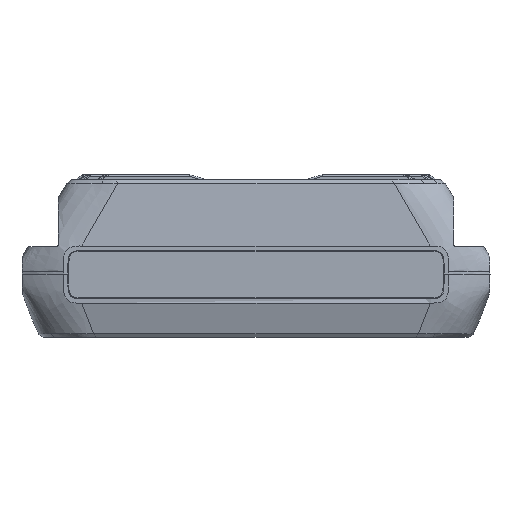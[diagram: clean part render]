
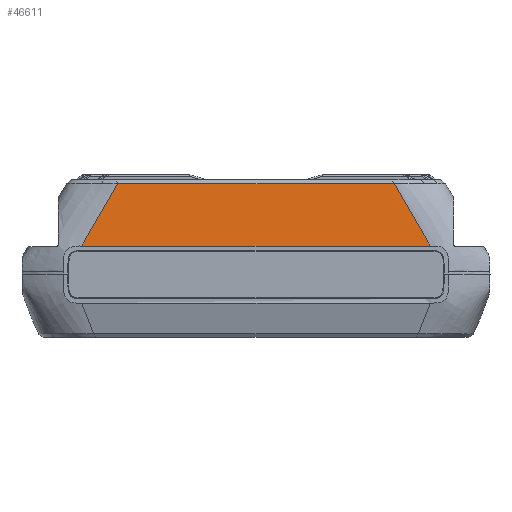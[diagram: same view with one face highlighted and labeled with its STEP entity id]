
A CAD part, top view. The second image highlights one B-rep face of the part: STEP entity #46611.
In plain terms, the highlighted face is a extrusion surface.
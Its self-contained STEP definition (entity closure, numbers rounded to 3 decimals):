
#20863=CARTESIAN_POINT('',(-26.58,11.254,
11.894));
#20864=CARTESIAN_POINT('',(-26.857,10.778,
11.932));
#20865=CARTESIAN_POINT('',(-27.398,9.839,
12.008));
#20866=CARTESIAN_POINT('',(-28.195,8.457,
12.118));
#20867=CARTESIAN_POINT('',(-28.948,7.15,
12.222));
#20868=CARTESIAN_POINT('',(-29.754,5.751,
12.334));
#20869=CARTESIAN_POINT('',(-30.529,4.405,
12.442));
#20870=CARTESIAN_POINT('',(-31.261,3.138,
12.543));
#20871=CARTESIAN_POINT('',(-32.048,1.779,
12.651));
#20872=CARTESIAN_POINT('',(-32.796,0.489,
12.756));
#20873=CARTESIAN_POINT('',(-33.272,-0.344,
12.819));
#20874=CARTESIAN_POINT('',(-33.506,-0.753,
12.854));
#23046=CARTESIAN_POINT('',(33.506,-0.753,
12.854));
#23047=CARTESIAN_POINT('',(33.263,-0.33,
12.818));
#23048=CARTESIAN_POINT('',(32.774,0.526,
12.753));
#23049=CARTESIAN_POINT('',(32.016,1.834,12.647));
#23050=CARTESIAN_POINT('',(31.232,3.187,12.539));
#23051=CARTESIAN_POINT('',(30.506,4.444,12.439));
#23052=CARTESIAN_POINT('',(29.74,5.773,12.332));
#23053=CARTESIAN_POINT('',(28.945,7.154,12.222));
#23054=CARTESIAN_POINT('',(28.2,8.447,12.119));
#23055=CARTESIAN_POINT('',(27.406,9.824,12.009));
#23056=CARTESIAN_POINT('',(26.86,10.771,11.933));
#23057=CARTESIAN_POINT('',(26.579,11.254,11.894));
#23296=DIRECTION('',(1.,0.,0.));
#23297=VECTOR('',#23296,53.16);
#23298=CARTESIAN_POINT('',(-26.58,11.254,
11.894));
#23299=LINE('',#23298,#23297);
#23300=DIRECTION('',(-1.,0.,0.));
#23301=VECTOR('',#23300,67.012);
#23302=CARTESIAN_POINT('',(33.506,-0.753,
12.854));
#23303=LINE('',#23302,#23301);
#23355=CARTESIAN_POINT('',(33.506,-0.753,
12.854));
#38904=CARTESIAN_POINT('',(-26.58,11.254,
11.894));
#38905=VERTEX_POINT('',#38904);
#38911=VERTEX_POINT('',#20874);
#39204=VERTEX_POINT('',#23355);
#39205=VERTEX_POINT('',#23057);
#46587=CARTESIAN_POINT('',(30.008,-0.873,
12.864));
#46588=CARTESIAN_POINT('',(30.008,-0.833,
12.861));
#46589=CARTESIAN_POINT('',(30.008,-0.53,
12.835));
#46590=CARTESIAN_POINT('',(30.008,0.037,
12.791));
#46591=CARTESIAN_POINT('',(30.008,0.828,
12.727));
#46592=CARTESIAN_POINT('',(30.008,1.619,12.664));
#46593=CARTESIAN_POINT('',(30.008,2.678,12.58));
#46594=CARTESIAN_POINT('',(30.008,4.003,12.474));
#46595=CARTESIAN_POINT('',(30.008,6.124,12.304));
#46596=CARTESIAN_POINT('',(30.008,8.542,12.111));
#46597=CARTESIAN_POINT('',(30.008,10.469,11.957));
#46598=CARTESIAN_POINT('',(30.008,11.334,11.888));
#46599=CARTESIAN_POINT('',(30.008,11.374,11.885));
#46601=DIRECTION('',(-1.,0.,0.));
#46602=VECTOR('',#46601,1.);
#46603=SURFACE_OF_LINEAR_EXTRUSION('',#46600,#46602);
#46604=ORIENTED_EDGE('',*,*,#42430,.F.);
#46605=ORIENTED_EDGE('',*,*,#46581,.T.);
#46606=ORIENTED_EDGE('',*,*,#46236,.F.);
#46608=ORIENTED_EDGE('',*,*,#46607,.T.);
#46609=EDGE_LOOP('',(#46604,#46605,#46606,#46608));
#46610=FACE_OUTER_BOUND('',#46609,.F.);
#20875=B_SPLINE_CURVE_WITH_KNOTS('',3,(#20863,#20864,#20865,#20866,#20867,
#20868,#20869,#20870,#20871,#20872,#20873,#20874),.UNSPECIFIED.,.F.,.F.,(4,1,1,
1,1,1,1,1,1,4),(0.,0.111,0.222,0.333,
0.444,0.556,0.667,0.778,
0.889,1.),.UNSPECIFIED.);
#23058=B_SPLINE_CURVE_WITH_KNOTS('',3,(#23046,#23047,#23048,#23049,#23050,
#23051,#23052,#23053,#23054,#23055,#23056,#23057),.UNSPECIFIED.,.F.,.F.,(4,1,1,
1,1,1,1,1,1,4),(0.,0.111,0.222,0.333,
0.444,0.556,0.667,0.778,
0.889,1.),.UNSPECIFIED.);
#42430=EDGE_CURVE('',#38905,#38911,#20875,.T.);
#46236=EDGE_CURVE('',#39204,#39205,#23058,.T.);
#46581=EDGE_CURVE('',#38905,#39205,#23299,.T.);
#46600=B_SPLINE_CURVE_WITH_KNOTS('',3,(#46587,#46588,#46589,#46590,#46591,
#46592,#46593,#46594,#46595,#46596,#46597,#46598,#46599),.UNSPECIFIED.,.F.,.F.,(
4,1,1,1,1,1,1,1,1,1,4),(0.,0.01,0.074,
0.139,0.204,0.268,0.398,
0.528,0.788,0.99,1.),.UNSPECIFIED.);
#46607=EDGE_CURVE('',#39204,#38911,#23303,.T.);
#46611=ADVANCED_FACE('',(#46610),#46603,.T.);
